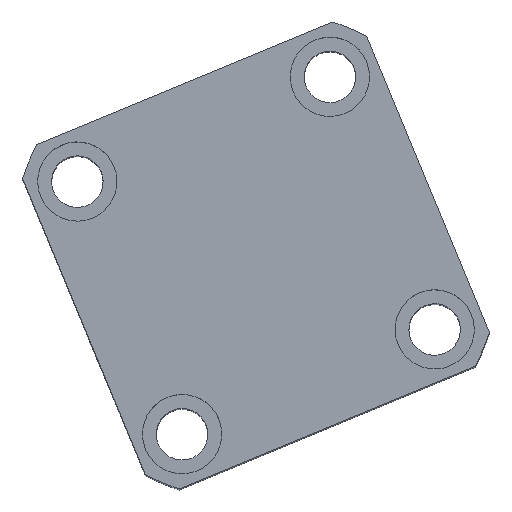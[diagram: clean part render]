
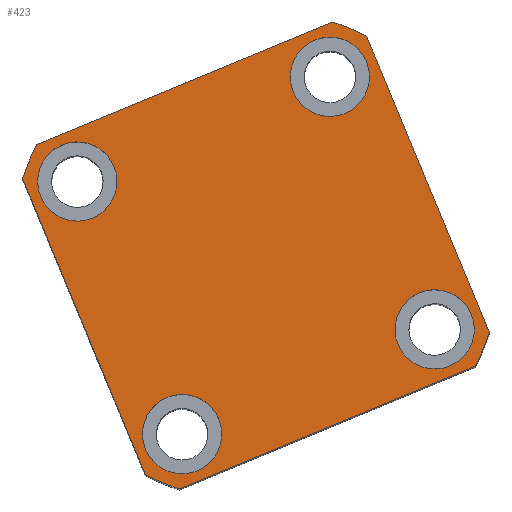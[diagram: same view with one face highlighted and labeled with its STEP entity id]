
A CAD part, top view. The second image highlights one B-rep face of the part: STEP entity #423.
In plain terms, the highlighted planar face has unit normal (0, 0, 1) as drawn and (0, 0, -1) by its records, which use the part's own axes.
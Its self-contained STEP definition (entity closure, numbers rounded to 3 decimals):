
#49 = ORIENTED_EDGE ( 'NONE', *, *, #19408, .F. ) ;
#73 = ORIENTED_EDGE ( 'NONE', *, *, #17068, .F. ) ;
#130 = DIRECTION ( 'NONE',  ( 0., 0., 1. ) ) ;
#222 = FACE_OUTER_BOUND ( 'NONE', #4439, .T. ) ;
#235 = ORIENTED_EDGE ( 'NONE', *, *, #11180, .F. ) ;
#251 = DIRECTION ( 'NONE',  ( 0., 0., 1. ) ) ;
#423 = ADVANCED_FACE ( 'NONE', ( #9431, #18106, #8878, #4319, #222 ), #11837, .F. ) ;
#771 = DIRECTION ( 'NONE',  ( -1., 0., 0. ) ) ;
#778 = AXIS2_PLACEMENT_3D ( 'NONE', #15727, #5347, #17448 ) ;
#1132 = ORIENTED_EDGE ( 'NONE', *, *, #9861, .F. ) ;
#1389 = DIRECTION ( 'NONE',  ( 1., 0., 0. ) ) ;
#1620 = VERTEX_POINT ( 'NONE', #20949 ) ;
#1796 = VERTEX_POINT ( 'NONE', #3416 ) ;
#1847 = ORIENTED_EDGE ( 'NONE', *, *, #14362, .F. ) ;
#2057 = AXIS2_PLACEMENT_3D ( 'NONE', #13139, #2794, #14879 ) ;
#2270 = VECTOR ( 'NONE', #15460, 1000. ) ;
#2553 = CIRCLE ( 'NONE', #16885, 62. ) ;
#2794 = DIRECTION ( 'NONE',  ( 0., 0., 1. ) ) ;
#3143 = VERTEX_POINT ( 'NONE', #7871 ) ;
#3379 = EDGE_CURVE ( 'NONE', #3143, #13702, #11376, .T. ) ;
#3416 = CARTESIAN_POINT ( 'NONE',  ( -40.435, 47., 0. ) ) ;
#3476 = VERTEX_POINT ( 'NONE', #8906 ) ;
#3586 = LINE ( 'NONE', #14023, #21940 ) ;
#3772 = CARTESIAN_POINT ( 'NONE',  ( 47., -40.435, 0. ) ) ;
#3792 = VERTEX_POINT ( 'NONE', #5306 ) ;
#4051 = VERTEX_POINT ( 'NONE', #16460 ) ;
#4077 = DIRECTION ( 'NONE',  ( 0., 0., -1. ) ) ;
#4107 = AXIS2_PLACEMENT_3D ( 'NONE', #4838, #16953, #6574 ) ;
#4284 = CARTESIAN_POINT ( 'NONE',  ( -47., 47., 0. ) ) ;
#4319 = FACE_BOUND ( 'NONE', #20305, .T. ) ;
#4439 = EDGE_LOOP ( 'NONE', ( #9270, #19011, #5354, #9938, #18614, #13199, #8332, #1847 ) ) ;
#4758 = CARTESIAN_POINT ( 'NONE',  ( -34.5, 34.5, 0. ) ) ;
#4838 = CARTESIAN_POINT ( 'NONE',  ( -34.5, -34.5, 0. ) ) ;
#4969 = CIRCLE ( 'NONE', #14705, 10. ) ;
#5158 = VERTEX_POINT ( 'NONE', #6644 ) ;
#5236 = DIRECTION ( 'NONE',  ( 0., 0., -1. ) ) ;
#5306 = CARTESIAN_POINT ( 'NONE',  ( 44.5, 34.5, 0. ) ) ;
#5347 = DIRECTION ( 'NONE',  ( 0., 0., -1. ) ) ;
#5354 = ORIENTED_EDGE ( 'NONE', *, *, #7997, .F. ) ;
#5994 = AXIS2_PLACEMENT_3D ( 'NONE', #12517, #11319, #10087 ) ;
#6172 = EDGE_CURVE ( 'NONE', #11106, #5158, #9734, .T. ) ;
#6489 = DIRECTION ( 'NONE',  ( -1., 0., 0. ) ) ;
#6574 = DIRECTION ( 'NONE',  ( -1., 0., 0. ) ) ;
#6644 = CARTESIAN_POINT ( 'NONE',  ( 44.5, -34.5, 0. ) ) ;
#6800 = DIRECTION ( 'NONE',  ( 0., 0., -1. ) ) ;
#6846 = LINE ( 'NONE', #20565, #2270 ) ;
#7240 = CARTESIAN_POINT ( 'NONE',  ( -24.5, -34.5, 0. ) ) ;
#7759 = CIRCLE ( 'NONE', #19790, 10. ) ;
#7871 = CARTESIAN_POINT ( 'NONE',  ( -44.5, 34.5, 0. ) ) ;
#7920 = CARTESIAN_POINT ( 'NONE',  ( -40.435, -47., 0. ) ) ;
#7997 = EDGE_CURVE ( 'NONE', #10354, #9400, #13997, .T. ) ;
#8332 = ORIENTED_EDGE ( 'NONE', *, *, #11440, .F. ) ;
#8666 = DIRECTION ( 'NONE',  ( 0., 0., -1. ) ) ;
#8878 = FACE_BOUND ( 'NONE', #10015, .T. ) ;
#8906 = CARTESIAN_POINT ( 'NONE',  ( -47., -40.435, 0. ) ) ;
#9270 = ORIENTED_EDGE ( 'NONE', *, *, #20438, .F. ) ;
#9273 = CIRCLE ( 'NONE', #9599, 10. ) ;
#9369 = CARTESIAN_POINT ( 'NONE',  ( -47., 47., 0. ) ) ;
#9400 = VERTEX_POINT ( 'NONE', #3772 ) ;
#9431 = FACE_BOUND ( 'NONE', #11992, .T. ) ;
#9558 = EDGE_LOOP ( 'NONE', ( #235, #15750 ) ) ;
#9599 = AXIS2_PLACEMENT_3D ( 'NONE', #17184, #6800, #18906 ) ;
#9734 = CIRCLE ( 'NONE', #17739, 10. ) ;
#9861 = EDGE_CURVE ( 'NONE', #1620, #3792, #7759, .T. ) ;
#9938 = ORIENTED_EDGE ( 'NONE', *, *, #21770, .F. ) ;
#10015 = EDGE_LOOP ( 'NONE', ( #16838, #49 ) ) ;
#10087 = DIRECTION ( 'NONE',  ( 1., 0., 0. ) ) ;
#10164 = CARTESIAN_POINT ( 'NONE',  ( 34.5, 34.5, 0. ) ) ;
#10354 = VERTEX_POINT ( 'NONE', #10662 ) ;
#10460 = CARTESIAN_POINT ( 'NONE',  ( 0., 0., 0. ) ) ;
#10587 = CARTESIAN_POINT ( 'NONE',  ( 0., 0., 0. ) ) ;
#10662 = CARTESIAN_POINT ( 'NONE',  ( 40.435, -47., 0. ) ) ;
#10821 = VERTEX_POINT ( 'NONE', #15236 ) ;
#11025 = AXIS2_PLACEMENT_3D ( 'NONE', #10460, #130, #12225 ) ;
#11106 = VERTEX_POINT ( 'NONE', #21607 ) ;
#11180 = EDGE_CURVE ( 'NONE', #15324, #17324, #13418, .T. ) ;
#11319 = DIRECTION ( 'NONE',  ( 0., 0., 1. ) ) ;
#11376 = CIRCLE ( 'NONE', #13685, 10. ) ;
#11440 = EDGE_CURVE ( 'NONE', #1796, #16965, #15867, .T. ) ;
#11565 = CIRCLE ( 'NONE', #11741, 10. ) ;
#11736 = DIRECTION ( 'NONE',  ( 0., 0., 1. ) ) ;
#11741 = AXIS2_PLACEMENT_3D ( 'NONE', #14445, #4077, #16197 ) ;
#11798 = AXIS2_PLACEMENT_3D ( 'NONE', #22070, #11736, #1389 ) ;
#11837 = PLANE ( 'NONE',  #5994 ) ;
#11909 = DIRECTION ( 'NONE',  ( -1., 0., 0. ) ) ;
#11992 = EDGE_LOOP ( 'NONE', ( #14561, #15640 ) ) ;
#12225 = DIRECTION ( 'NONE',  ( 1., 0., 0. ) ) ;
#12270 = DIRECTION ( 'NONE',  ( 1., 0., 0. ) ) ;
#12348 = DIRECTION ( 'NONE',  ( 1., 0., 0. ) ) ;
#12517 = CARTESIAN_POINT ( 'NONE',  ( 0., 0., 0. ) ) ;
#13139 = CARTESIAN_POINT ( 'NONE',  ( 0., 0., 0. ) ) ;
#13199 = ORIENTED_EDGE ( 'NONE', *, *, #18633, .F. ) ;
#13219 = CARTESIAN_POINT ( 'NONE',  ( -24.5, 34.5, 0. ) ) ;
#13418 = CIRCLE ( 'NONE', #4107, 10. ) ;
#13685 = AXIS2_PLACEMENT_3D ( 'NONE', #4758, #16882, #6489 ) ;
#13702 = VERTEX_POINT ( 'NONE', #13219 ) ;
#13991 = CIRCLE ( 'NONE', #778, 10. ) ;
#13997 = CIRCLE ( 'NONE', #11798, 62. ) ;
#14011 = CIRCLE ( 'NONE', #2057, 62. ) ;
#14023 = CARTESIAN_POINT ( 'NONE',  ( -47., -47., 0. ) ) ;
#14362 = EDGE_CURVE ( 'NONE', #4051, #1796, #16508, .T. ) ;
#14445 = CARTESIAN_POINT ( 'NONE',  ( -34.5, -34.5, 0. ) ) ;
#14561 = ORIENTED_EDGE ( 'NONE', *, *, #6172, .F. ) ;
#14705 = AXIS2_PLACEMENT_3D ( 'NONE', #19042, #8666, #20758 ) ;
#14879 = DIRECTION ( 'NONE',  ( 1., 0., 0. ) ) ;
#15013 = EDGE_CURVE ( 'NONE', #17324, #15324, #11565, .T. ) ;
#15236 = CARTESIAN_POINT ( 'NONE',  ( 47., 40.435, 0. ) ) ;
#15303 = EDGE_CURVE ( 'NONE', #3476, #21265, #14011, .T. ) ;
#15324 = VERTEX_POINT ( 'NONE', #18279 ) ;
#15460 = DIRECTION ( 'NONE',  ( 0., 1., 0. ) ) ;
#15609 = CARTESIAN_POINT ( 'NONE',  ( 34.5, -34.5, 0. ) ) ;
#15640 = ORIENTED_EDGE ( 'NONE', *, *, #18405, .F. ) ;
#15727 = CARTESIAN_POINT ( 'NONE',  ( 34.5, 34.5, 0. ) ) ;
#15750 = ORIENTED_EDGE ( 'NONE', *, *, #15013, .F. ) ;
#15867 = CIRCLE ( 'NONE', #11025, 62. ) ;
#15958 = VECTOR ( 'NONE', #771, 1000. ) ;
#16197 = DIRECTION ( 'NONE',  ( -1., 0., 0. ) ) ;
#16460 = CARTESIAN_POINT ( 'NONE',  ( 40.435, 47., 0. ) ) ;
#16508 = LINE ( 'NONE', #9369, #15958 ) ;
#16838 = ORIENTED_EDGE ( 'NONE', *, *, #3379, .F. ) ;
#16882 = DIRECTION ( 'NONE',  ( 0., 0., -1. ) ) ;
#16885 = AXIS2_PLACEMENT_3D ( 'NONE', #10587, #251, #12348 ) ;
#16953 = DIRECTION ( 'NONE',  ( 0., 0., -1. ) ) ;
#16965 = VERTEX_POINT ( 'NONE', #18755 ) ;
#17068 = EDGE_CURVE ( 'NONE', #3792, #1620, #13991, .T. ) ;
#17184 = CARTESIAN_POINT ( 'NONE',  ( -34.5, 34.5, 0. ) ) ;
#17324 = VERTEX_POINT ( 'NONE', #7240 ) ;
#17336 = DIRECTION ( 'NONE',  ( -1., 0., 0. ) ) ;
#17448 = DIRECTION ( 'NONE',  ( -1., 0., 0. ) ) ;
#17739 = AXIS2_PLACEMENT_3D ( 'NONE', #15609, #5236, #17336 ) ;
#18106 = FACE_BOUND ( 'NONE', #9558, .T. ) ;
#18115 = DIRECTION ( 'NONE',  ( 0., -1., 0. ) ) ;
#18279 = CARTESIAN_POINT ( 'NONE',  ( -44.5, -34.5, 0. ) ) ;
#18405 = EDGE_CURVE ( 'NONE', #5158, #11106, #4969, .T. ) ;
#18614 = ORIENTED_EDGE ( 'NONE', *, *, #15303, .F. ) ;
#18633 = EDGE_CURVE ( 'NONE', #16965, #3476, #22244, .T. ) ;
#18755 = CARTESIAN_POINT ( 'NONE',  ( -47., 40.435, 0. ) ) ;
#18906 = DIRECTION ( 'NONE',  ( -1., 0., 0. ) ) ;
#19011 = ORIENTED_EDGE ( 'NONE', *, *, #19126, .F. ) ;
#19042 = CARTESIAN_POINT ( 'NONE',  ( 34.5, -34.5, 0. ) ) ;
#19126 = EDGE_CURVE ( 'NONE', #9400, #10821, #6846, .T. ) ;
#19408 = EDGE_CURVE ( 'NONE', #13702, #3143, #9273, .T. ) ;
#19790 = AXIS2_PLACEMENT_3D ( 'NONE', #10164, #22249, #11909 ) ;
#20305 = EDGE_LOOP ( 'NONE', ( #1132, #73 ) ) ;
#20438 = EDGE_CURVE ( 'NONE', #10821, #4051, #2553, .T. ) ;
#20565 = CARTESIAN_POINT ( 'NONE',  ( 47., 47., 0. ) ) ;
#20758 = DIRECTION ( 'NONE',  ( -1., 0., 0. ) ) ;
#20949 = CARTESIAN_POINT ( 'NONE',  ( 24.5, 34.5, 0. ) ) ;
#21265 = VERTEX_POINT ( 'NONE', #7920 ) ;
#21607 = CARTESIAN_POINT ( 'NONE',  ( 24.5, -34.5, 0. ) ) ;
#21710 = VECTOR ( 'NONE', #18115, 1000. ) ;
#21770 = EDGE_CURVE ( 'NONE', #21265, #10354, #3586, .T. ) ;
#21940 = VECTOR ( 'NONE', #12270, 1000. ) ;
#22070 = CARTESIAN_POINT ( 'NONE',  ( 0., 0., 0. ) ) ;
#22244 = LINE ( 'NONE', #4284, #21710 ) ;
#22249 = DIRECTION ( 'NONE',  ( 0., 0., -1. ) ) ;
